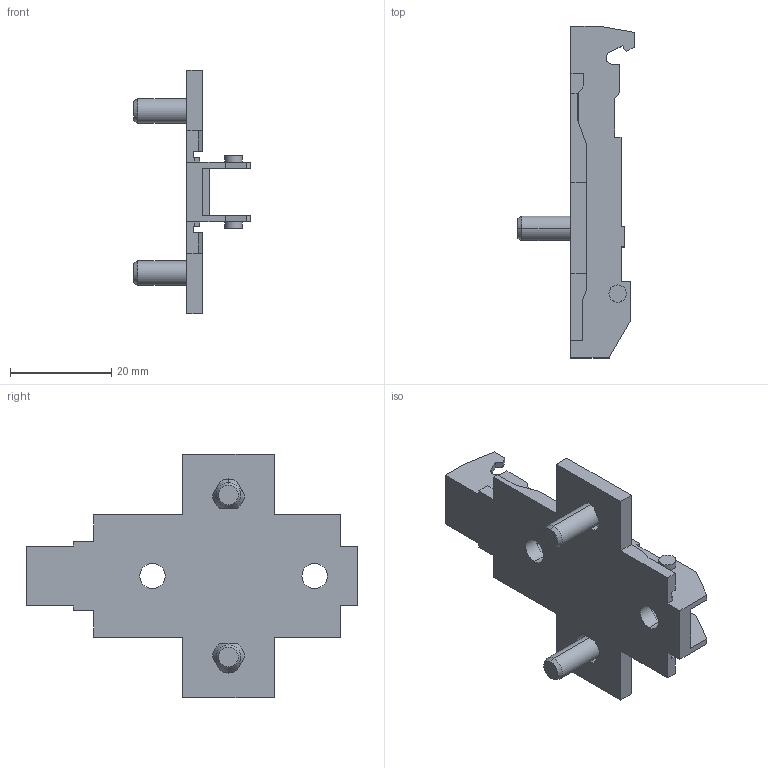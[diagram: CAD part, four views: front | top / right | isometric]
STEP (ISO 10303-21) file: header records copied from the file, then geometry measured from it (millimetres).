
FILE_DESCRIPTION (( 'STEP AP214' ), '1' );
FILE_NAME ('1D_Kreuzmontageplatte 37_32_Euro_vorgestellt 13,5_2.step', '2010-11-18T10:19:29', ( 'grass' ), ( '' ), 'SwSTEP 2.0', 'SolidWorks 2010', '' );
FILE_SCHEMA (( 'AUTOMOTIVE_DESIGN' ));
Length unit declared in the file: millimetre
Products named in the file (1): 1D_Kreuzmontageplatte 37_32_Euro_vorgestellt 13,5_2
Bounding box: 23 x 65.5 x 48 mm (x, y, z)
Volume: 6470.3 mm3; surface area: 6963.1 mm2
Topology: 1 solids, 1 shells, 142 faces, 406 edges, 264 vertices
Faces by surface type: plane 96, cylinder 34, cone 12
Entity records: 4708 total; most frequent: CARTESIAN_POINT 905, ORIENTED_EDGE 812, DIRECTION 752, EDGE_CURVE 406, LINE 306, VECTOR 306, VERTEX_POINT 264, AXIS2_PLACEMENT_3D 223
